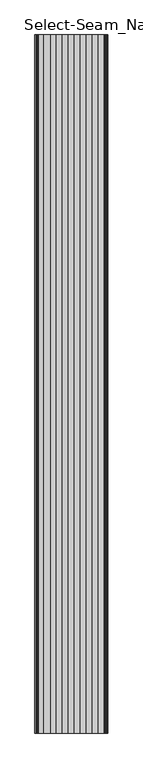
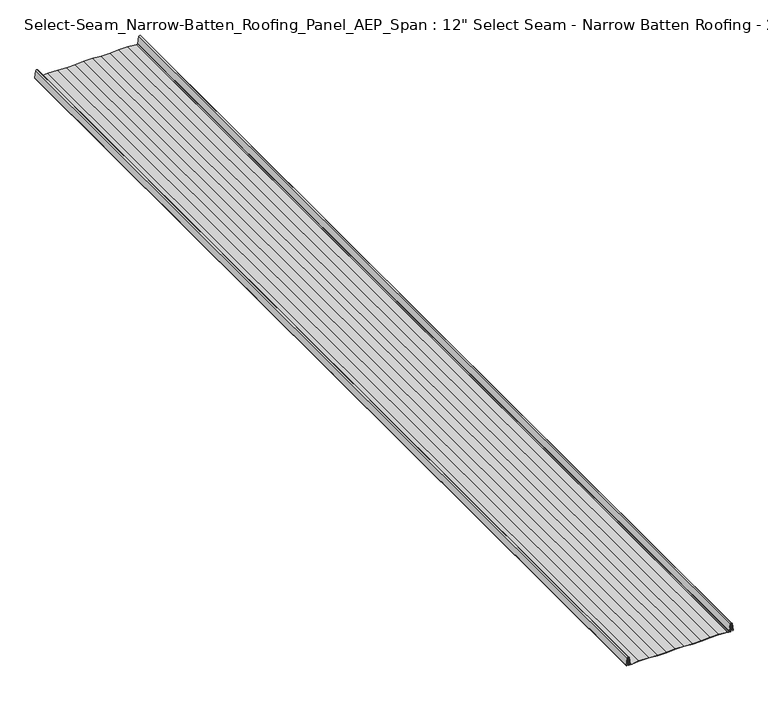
"""IFC4 building model written with IfcOpenShell, lengths in millimetres: proxy geometry."""

from ifc_helpers import new_model, si_unit, point, frame, frame_2d, origin, place, context, project, spatial, polyline, circle_curve, trimmed, segment, composite_curve, outline, extrude, source, transform, mapped, element, save


def proxy_a87bcd5d(model_context):
    return source(origin(), model_context, "Body", "SweptSolid", [
        extrude(outline(composite_curve([segment(polyline([(3.7394555, -157.1308914), (4.2086083, -157.7778907), (1.4041547, -159.7466896), (23.3725009, -156.5527157)]), True, "CONTINUOUS"), segment(trimmed(circle_curve(frame_2d((23.3246979, -154.6784885)), 1.8748367), [point((23.3725009, -156.5527157))], [point((23.8974513, -152.8932809))], True, "CARTESIAN"), True, "CONTINUOUS"), segment(polyline([(23.8974513, -152.8932809), (1.4145788, -149.3143475), (4.2479637, -151.2661718), (3.760774, -151.9380454), (0.8517975, -149.8286855)]), True, "CONTINUOUS"), segment(trimmed(circle_curve(frame_2d((1.7810778, -149.5855977)), 0.9605486), [point((0.8517975, -149.8286855))], [point((1.8542575, -148.6278408))], False, "CARTESIAN"), True, "CONTINUOUS"), segment(polyline([(1.8542575, -148.6278408), (24.0639992, -152.1636306)]), True, "CONTINUOUS"), segment(trimmed(circle_curve(frame_2d((23.3206239, -154.678222)), 2.6221702), [point((24.0639992, -152.1636306))], [point((23.9569589, -157.2220094))], False, "CARTESIAN"), True, "CONTINUOUS"), segment(polyline([(23.9569589, -157.2220094), (1.8070914, -160.4427208)]), True, "CONTINUOUS"), segment(trimmed(circle_curve(frame_2d((1.7597593, -159.4833391)), 0.9605486), [point((1.8070914, -160.4427208))], [point((0.830479, -159.2402512))], False, "CARTESIAN"), True, "CONTINUOUS"), segment(polyline([(0.830479, -159.2402512), (3.7394555, -157.1308914)]), True, "CONTINUOUS")], self_intersect=False)), frame((0.0, -3048.0, 0.0), z_axis=(0.0, 1.0, 0.0), x_axis=(0.0, 0.0, 1.0)), (0.0, 0.0, 1.0), 3048.0),
        extrude(outline(composite_curve([segment(polyline([(3.760774, 148.7631964), (4.2227917, 148.1260369), (1.4139813, 146.1390652), (23.3342898, 149.6284626)]), True, "CONTINUOUS"), segment(trimmed(circle_curve(frame_2d((23.325029, 151.5030985)), 1.8746588), [point((23.3342898, 149.6284626))], [point((23.81023, 153.3138789))], True, "CARTESIAN"), True, "CONTINUOUS"), segment(polyline([(23.81023, 153.3138789), (1.4046757, 156.5714628), (4.2079011, 154.6020664), (3.7394555, 153.9560424), (0.830479, 156.0654022)]), True, "CONTINUOUS"), segment(trimmed(circle_curve(frame_2d((1.7597593, 156.3084901)), 0.9605486), [point((0.830479, 156.0654022))], [point((1.9876092, 157.2416235))], False, "CARTESIAN"), True, "CONTINUOUS"), segment(polyline([(1.9876092, 157.2416235), (23.9569589, 154.0471604)]), True, "CONTINUOUS"), segment(trimmed(circle_curve(frame_2d((23.3206239, 151.5033729)), 2.6221702), [point((23.9569589, 154.0471604))], [point((24.0639992, 148.9887816))], False, "CARTESIAN"), True, "CONTINUOUS"), segment(polyline([(24.0639992, 148.9887816), (1.8542575, 145.4529917)]), True, "CONTINUOUS"), segment(trimmed(circle_curve(frame_2d((1.7810778, 146.4107486)), 0.9605486), [point((1.8542575, 145.4529917))], [point((0.8517975, 146.6538365))], False, "CARTESIAN"), True, "CONTINUOUS"), segment(polyline([(0.8517975, 146.6538365), (3.760774, 148.7631964)]), True, "CONTINUOUS")], self_intersect=False)), frame((0.0, -3048.0, 0.0), z_axis=(0.0, 1.0, 0.0), x_axis=(0.0, 0.0, 1.0)), (0.0, 0.0, 1.0), 3048.0),
        extrude(outline(polyline([(2.1488696, 115.1192185), (0.0, 141.0540291), (0.7815562, 141.0540291), (2.8956296, 115.1501025), (2.8956296, 89.1535238), (0.74676, 63.2187132), (0.74676, 37.3456707), (2.8956296, 11.41086), (2.8956296, -14.5857187), (0.74676, -40.5205293), (0.74676, -66.3935718), (2.8956296, -92.3283824), (2.8956296, -122.8128917), (0.7815609, -144.2288878), (0.0, -144.2288878), (2.1488696, -122.7755854), (2.1488696, -92.3592665), (0.0, -66.4244559), (0.0, -40.4896453), (2.1488696, -14.5548346), (2.1488696, 11.379976), (0.0, 37.3147866), (0.0, 63.2495972), (2.1488696, 89.1844078), (2.1488696, 115.1192185)])), frame((0.0, -3048.0, 0.0), z_axis=(0.0, 1.0, 0.0), x_axis=(0.0, 0.0, 1.0)), (0.0, 0.0, 1.0), 3048.0),
        extrude(outline(composite_curve([segment(polyline([(0.9605486, 150.8125707), (22.4631926, 150.8125707), (22.4631926, 150.0302507), (0.78232, 150.0302507), (0.78232, 141.0540291), (0.0, 141.0540291), (0.0, 149.8520221)]), True, "CONTINUOUS"), segment(trimmed(circle_curve(frame_2d((0.9605486, 149.8520221)), 0.9605486), [point((0.0, 149.8520221))], [point((0.9605486, 150.8125707))], False, "CARTESIAN"), True, "CONTINUOUS")], self_intersect=False)), frame((0.0, -3048.0, 0.0), z_axis=(0.0, 1.0, 0.0), x_axis=(0.0, 0.0, 1.0)), (0.0, 0.0, 1.0), 3048.0),
        extrude(outline(composite_curve([segment(polyline([(22.4631926, -153.9874293), (0.9605486, -153.9874293)]), True, "CONTINUOUS"), segment(trimmed(circle_curve(frame_2d((0.9605486, -153.0268808)), 0.9605486), [point((0.9605486, -153.9874293))], [point((0.0, -153.0268808))], False, "CARTESIAN"), True, "CONTINUOUS"), segment(polyline([(0.0, -153.0268808), (0.0, -144.2288878), (0.78232, -144.2288878), (0.78232, -153.2050997), (22.4631926, -153.2050997), (22.4631926, -153.9874293)]), True, "CONTINUOUS")], self_intersect=False)), frame((0.0, -3048.0, 0.0), z_axis=(0.0, 1.0, 0.0), x_axis=(0.0, 0.0, 1.0)), (0.0, 0.0, 1.0), 3048.0),
    ])


if __name__ == "__main__":
    model = new_model("IFC4")
    model_context = context("Model", 3, world=origin())
    ifc_project = project(units=[si_unit("LENGTHUNIT", "METRE", prefix="MILLI")], contexts=[model_context])
    site = spatial("IfcSite", under=ifc_project)
    building = spatial("IfcBuilding", under=site)
    placement = place(None, origin())
    proxy_shape = proxy_a87bcd5d(model_context)
    element("IfcBuildingElementProxy", 1, Name="Select-Seam_Narrow-Batten_Roofing_Panel_AEP_Span : 12\" Select Seam - Narrow Batten Roofing - 22ga", ObjectType="Select-Seam_Narrow-Batten_Roofing_Panel_AEP_Span : 12\" Select Seam - Narrow Batten Roofing - 22ga", at=placement, inside=building, context=model_context, shape_type="MappedRepresentation", body=[
        mapped(proxy_shape, transform((0.0, 0.0, 0.0), x_axis=(1.0, 0.0, 0.0), y_axis=(0.0, 1.0, 0.0), z_axis=(0.0, 0.0, 1.0))),
    ])
    save(model, "model.ifc")
